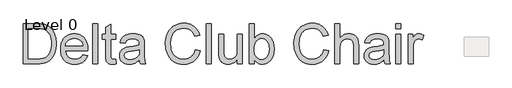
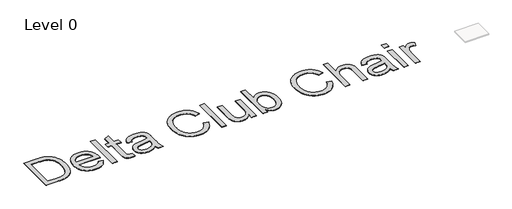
# One storey, part 2 of 2: 1 proxy.
"""IFC4 building model written with IfcOpenShell, lengths in millimetres."""

from ifc_helpers import new_model, si_unit, origin, origin_with_axes, place, context, project, spatial, polyline, outline, extrude, element, save

model = new_model("IFC4")

# Units and contexts
model_context = context("Model", 3, world=origin())
ifc_project = project(units=[si_unit("LENGTHUNIT", "METRE", prefix="MILLI")], contexts=[model_context])

# Site, building, storey
site = spatial("IfcSite", under=ifc_project)
building = spatial("IfcBuilding", under=site)
storey = spatial("IfcBuildingStorey", under=building, Name="Level 0", Elevation=0.0)

# Proxy
placement = place(None, origin())
element("IfcBuildingElementProxy", 1, Name="10 mm", ObjectType="10 mm", at=placement, inside=storey, context=model_context, shape_type="SweptSolid", body=[
    extrude(outline(polyline([(-216527.2707047, 70710.4267394), (-216527.2707047, 80756.0577544), (-213061.8223102, 80756.0577544), (-212776.828727, 80753.7968129), (-212509.2328966, 80747.0139887), (-212259.0348188, 80735.7092815), (-212026.2344938, 80719.8826915), (-211810.8319214, 80699.5342187), (-211612.8271017, 80674.6638629), (-211432.2200347, 80645.2716244), (-211269.0107204, 80611.3575029), (-211057.0953627, 80556.6733772), (-210852.9974975, 80491.9491387), (-210656.7171246, 80417.1847874), (-210468.2542442, 80332.3803233), (-210287.6088561, 80237.5357464), (-210114.7809605, 80132.6510567), (-209949.7705572, 80017.7262543), (-209792.5776464, 79892.761339), (-209600.1676987, 79718.9370963), (-209420.2504104, 79533.4632571), (-209252.8257816, 79336.3398213), (-209097.8938122, 79127.5667891), (-208955.4545021, 78907.1441603), (-208825.5078516, 78675.071935), (-208708.0538604, 78431.3501132), (-208603.0925286, 78175.9786949), (-208510.5472142, 77910.1073113), (-208430.3412751, 77634.8855936), (-208362.4747112, 77350.3135419), (-208306.9475225, 77056.3911562), (-208263.7597091, 76753.1184364), (-208232.911271, 76440.4953826), (-208214.4022081, 76118.5219948), (-208208.2325205, 75787.1982729), (-208212.409514, 75505.5194598), (-208224.9404944, 75231.9263864), (-208245.8254619, 74966.4190527), (-208275.0644163, 74708.9974587), (-208312.6573577, 74459.6616043), (-208358.604286, 74218.4114897), (-208412.9052013, 73985.2471147), (-208475.5601036, 73760.1684794), (-208544.767904, 73543.9036836), (-208618.7275134, 73337.1808271), (-208697.438932, 73139.9999097), (-208780.9021596, 72952.3609317), (-208869.1171964, 72774.2638929), (-208962.0840423, 72605.7087933), (-209059.8026972, 72446.695633), (-209162.2731613, 72297.2244119), (-209268.3458033, 72156.3754251), (-209376.8709918, 72023.2289676), (-209487.848727, 71897.7850394), (-209601.2790089, 71780.0436404), (-209717.1618374, 71670.0047707), (-209835.4972125, 71567.6684303), (-209956.2851342, 71473.0346191), (-210079.5256026, 71386.1033372), (-210207.1921513, 71305.5333482), (-210341.2583138, 71229.9834155), (-210481.7240902, 71159.4535393), (-210628.5894804, 71093.9437194), (-210781.8544846, 71033.4539559), (-210941.5191026, 70977.9842488), (-211107.5833344, 70927.5345981), (-211280.0471802, 70882.1050038), (-211458.9872819, 70841.8679106), (-211644.4802817, 70806.9957631), (-211836.5261795, 70777.4885614), (-212035.1249753, 70753.3463055), (-212240.2766692, 70734.5689953), (-212451.9812611, 70721.1566309), (-212670.238751, 70713.1092123), (-212895.049139, 70710.4267394), (-216527.2707047, 70710.4267394)]), holes=[polyline([(-215271.5668279, 71966.1306163), (-213049.559577, 71966.1306163), (-212798.9782888, 71968.9663733), (-212562.2692176, 71977.4736445), (-212339.4323632, 71991.6524297), (-212130.4677257, 72011.502729), (-211935.3753052, 72037.0245424), (-211754.1551015, 72068.2178699), (-211586.8071147, 72105.0827115), (-211433.3313449, 72147.6190672), (-211290.5471455, 72195.3287635), (-211155.2738702, 72247.7136268), (-211027.5115189, 72304.773657), (-210907.2600918, 72366.5088544), (-210794.5195887, 72432.9192187), (-210689.2900096, 72504.0047501), (-210591.5713547, 72579.7654484), (-210501.3636238, 72660.2013138), (-210382.1277042, 72781.0850382), (-210269.6746089, 72911.9705543), (-210164.0043379, 73052.8578621), (-210065.1168911, 73203.7469617), (-209973.0122687, 73364.637853), (-209887.6904705, 73535.5305361), (-209809.1514967, 73716.4250109), (-209737.3953471, 73907.3212775), (-209673.3034058, 74108.410941), (-209617.7570566, 74319.8856067), (-209570.7562996, 74541.7452745), (-209532.3011348, 74773.9899445), (-209502.3915622, 75016.6196166), (-209481.0275817, 75269.6342909), (-209468.2091934, 75533.0339673), (-209463.9363974, 75806.8186459), (-209472.3095448, 76182.5181335), (-209497.4289873, 76535.838133), (-209539.2947248, 76866.7786445), (-209597.9067573, 77175.339668), (-209673.2650847, 77461.5212034), (-209765.3697072, 77725.3232508), (-209874.2206246, 77966.7458101), (-209999.817837, 78185.7888814), (-210137.4095353, 78385.0582955), (-210282.2439104, 78567.1598831), (-210434.3209622, 78732.0936442), (-210593.6406909, 78879.859579), (-210760.2030963, 79010.4576873), (-210934.0081785, 79123.8879691), (-211115.0559375, 79220.1504245), (-211303.3463732, 79299.2450535), (-211452.4152234, 79346.3799341), (-211622.4840041, 79387.230164), (-211813.5527153, 79421.7957431), (-212025.6213571, 79450.0766715), (-212258.6899295, 79472.0729491), (-212512.7584324, 79487.784576), (-212787.8268659, 79497.2115521), (-213083.8952299, 79500.3538775), (-215271.5668279, 79500.3538775), (-215271.5668279, 71966.1306163)])]), origin_with_axes(), (0.0, 0.0, 1.0), 50.0),
    extrude(outline(polyline([(-201473.5394621, 72907.9085239), (-200242.3610516, 72750.9455393), (-200328.4875916, 72497.0686416), (-200431.1305004, 72257.8303816), (-200550.2897779, 72033.2307594), (-200685.9654241, 71823.2697748), (-200838.1574391, 71627.947428), (-201006.8658228, 71447.2637189), (-201192.0905753, 71281.2186476), (-201393.8316965, 71129.8122139), (-201611.0928394, 70994.7305438), (-201842.8776569, 70877.6597631), (-202089.1861489, 70778.5998716), (-202350.0183156, 70697.5508696), (-202625.3741569, 70634.5127569), (-202915.2536728, 70589.4855335), (-203219.6568633, 70562.4691995), (-203538.5837284, 70553.4637548), (-203938.7703613, 70569.002937), (-204317.7271373, 70615.6204836), (-204675.4540566, 70693.3163945), (-205011.9511191, 70802.0906699), (-205327.2183247, 70941.9433096), (-205621.2556736, 71112.8743137), (-205894.0631656, 71314.8836822), (-206145.6408009, 71547.9714151), (-206371.5433385, 71809.1101501), (-206567.3255378, 72095.272525), (-206732.9873988, 72406.4585398), (-206868.5289214, 72742.6681944), (-206973.9501056, 73103.901489), (-207049.2509515, 73490.1584234), (-207094.431459, 73901.4389977), (-207109.4916282, 74337.7432119), (-207094.2781749, 74788.8968295), (-207048.6378149, 75214.0687812), (-206972.5705481, 75613.259067), (-206866.0763747, 75986.4676869), (-206729.1552947, 76333.6946409), (-206561.8073079, 76654.939929), (-206364.0324145, 76950.2035511), (-206135.8306143, 77219.4855074), (-205883.3715951, 77459.7584355), (-205612.8250445, 77667.9949732), (-205324.1909625, 77844.1951205), (-205017.469349, 77988.3588773), (-204692.6602041, 78100.4862438), (-204349.7635277, 78180.5772198), (-203988.77932, 78228.6318054), (-203609.7075808, 78244.6500006), (-203243.0326984, 78228.6701265), (-202893.4873214, 78180.730504), (-202561.0714498, 78100.8311331), (-202245.7850837, 77988.972014), (-201947.6282229, 77845.1531465), (-201666.6008675, 77669.3745307), (-201402.7030175, 77461.6361665), (-201155.9346729, 77221.938054), (-200932.6188056, 76953.2692344), (-200739.0783872, 76658.6187489), (-200575.3134177, 76337.9865975), (-200441.3238973, 75991.3727802), (-200337.1098259, 75618.7772969), (-200262.6712034, 75220.2001478), (-200218.0080299, 74795.6413327), (-200203.1203054, 74345.1008518), (-200210.4779453, 74006.6494162), (-205853.7877514, 74006.6494162), (-205826.4073674, 73748.3272777), (-205781.0544152, 73505.5634819), (-205717.7288947, 73278.3580289), (-205636.4308059, 73066.7109185), (-205537.1601487, 72870.6221509), (-205419.9169233, 72690.091726), (-205284.7011295, 72525.1196437), (-205131.5127675, 72375.7059042), (-204964.3372254, 72242.9234966), (-204787.1598916, 72127.84541), (-204599.980766, 72030.4716444), (-204402.7998487, 71950.8021998), (-204195.6171397, 71888.8370763), (-203978.4326389, 71844.5762737), (-203751.2463463, 71818.0197922), (-203514.058262, 71809.1676317), (-203337.0916939, 71813.2679831), (-203166.7163449, 71825.5690373), (-203002.932215, 71846.0707943), (-202845.7393041, 71874.7732541), (-202695.1376123, 71911.6764168), (-202551.1271397, 71956.7802822), (-202413.707886, 72010.0848505), (-202282.8798515, 72071.5901216), (-202158.643036, 72142.0625163), (-202040.9974397, 72222.2684554), (-201929.9430624, 72312.207939), (-201825.4799042, 72411.8809671), (-201727.607965, 72521.2875396), (-201636.327245, 72640.4276566), (-201551.637744, 72769.301318), (-201473.5394621, 72907.9085239)]), holes=[polyline([(-205853.7877514, 75262.3532931), (-201458.8241823, 75262.3532931), (-201485.9938005, 75445.9110802), (-201523.3568156, 75617.6659867), (-201570.9132277, 75777.6180126), (-201628.6630367, 75925.7671577), (-201696.6062427, 76062.1134222), (-201774.7428457, 76186.6568059), (-201863.0728455, 76299.3973091), (-201961.5962424, 76400.3349315), (-202126.913214, 76538.2906797), (-202304.0330662, 76657.8523281), (-202492.9557992, 76759.0198768), (-202693.6814128, 76841.7933257), (-202906.2099071, 76906.1726748), (-203130.5412821, 76952.1579242), (-203366.6755377, 76979.7490739), (-203614.612674, 76988.9461238), (-203839.9595566, 76981.6076444), (-204056.1477103, 76959.5922062), (-204263.1771352, 76922.8998093), (-204461.0478313, 76871.5304536), (-204649.7597985, 76805.4841392), (-204829.3130369, 76724.760866), (-204999.7075464, 76629.360634), (-205160.9433271, 76519.2834433), (-205308.8433855, 76396.9051983), (-205439.230728, 76264.6018037), (-205552.1053548, 76122.3732594), (-205647.4672657, 75970.2195655), (-205725.3164608, 75808.1407218), (-205785.6529402, 75636.1367286), (-205828.4767037, 75454.2075857), (-205853.7877514, 75262.3532931)])]), origin_with_axes(), (0.0, 0.0, 1.0), 50.0),
    extrude(outline(polyline([(-198947.4164286, 70710.4267394), (-198947.4164286, 80756.0577544), (-197691.7125517, 80756.0577544), (-197691.7125517, 70710.4267394), (-198947.4164286, 70710.4267394)])), origin_with_axes(), (0.0, 0.0, 1.0), 50.0),
    extrude(outline(polyline([(-193139.785998, 71757.6641523), (-192982.8230134, 70673.6385399), (-193238.3477159, 70621.0620714), (-193360.9367266, 70600.4070302), (-193480.0768436, 70583.5074511), (-193595.7680669, 70570.363334), (-193708.0103964, 70560.9746789), (-193816.8038323, 70555.3414858), (-193922.1483745, 70553.4637548), (-194087.1970987, 70556.7210433), (-194242.6655627, 70566.4929088), (-194388.5537665, 70582.7793513), (-194524.8617099, 70605.5803708), (-194651.589393, 70634.8959673), (-194768.7368159, 70670.7261408), (-194876.3039784, 70713.0708913), (-194974.2908807, 70761.9302187), (-195064.0387591, 70816.0778499), (-195146.8888501, 70874.2875114), (-195222.8411536, 70936.5592033), (-195291.8956698, 71002.8929256), (-195354.0523986, 71073.2886782), (-195409.31134, 71147.7464612), (-195457.6724939, 71226.2662745), (-195499.1358604, 71308.8481182), (-195534.7744287, 71405.1488947), (-195565.6611879, 71524.8255062), (-195591.796138, 71667.8779529), (-195613.1792789, 71834.3062347), (-195629.8106108, 72024.1103516), (-195641.6901336, 72237.2903036), (-195648.8178472, 72473.8460907), (-195651.1937518, 72733.7777129), (-195651.1937518, 76831.9831392), (-196592.9716594, 76831.9831392), (-196592.9716594, 78087.687016), (-195651.1937518, 78087.687016), (-195651.1937518, 79880.4986059), (-194395.4898749, 80618.7151428), (-194395.4898749, 78087.687016), (-193139.785998, 78087.687016), (-193139.785998, 76831.9831392), (-194395.4898749, 76831.9831392), (-194395.4898749, 72770.5659124), (-194391.3512025, 72541.5593704), (-194378.9351851, 72357.3118045), (-194369.6231721, 72281.9726376), (-194358.2418229, 72217.8232146), (-194344.7911375, 72164.8635358), (-194329.2711158, 72123.0936009), (-194291.0267167, 72054.4989372), (-194268.0532525, 72023.0182019), (-194242.5122786, 71993.4151976), (-194183.7278014, 71939.842382), (-194114.6732853, 71893.7804906), (-194075.5283417, 71873.9493518), (-194032.2830468, 71856.7623648), (-193984.9374004, 71842.2195297), (-193933.4914026, 71830.3208464), (-193877.9450535, 71821.066315), (-193818.2983529, 71814.4559354), (-193686.7038975, 71809.1676317), (-193575.2663098, 71805.9486642), (-193446.967464, 71796.2917618), (-193301.8073601, 71780.1969246), (-193139.785998, 71757.6641523)])), origin_with_axes(), (0.0, 0.0, 1.0), 50.0),
    extrude(outline(polyline([(-187175.1925829, 71652.2046471), (-187323.5141727, 71506.92958), (-187472.9470728, 71372.7676149), (-187623.491283, 71249.7187517), (-187775.1468034, 71137.7829905), (-187927.913634, 71036.9603312), (-188081.7917748, 70947.2507738), (-188236.7812258, 70868.6543184), (-188392.8819869, 70801.1709649), (-188550.9754423, 70743.1145875), (-188711.9429757, 70692.7990605), (-188875.7845872, 70650.2243837), (-189042.5002768, 70615.3905573), (-189212.0900444, 70588.2975812), (-189384.5538902, 70568.9454554), (-189559.891814, 70557.33418), (-189738.103816, 70553.4637548), (-190026.258885, 70562.7757678), (-190297.2078066, 70590.7118068), (-190550.9505806, 70637.2718718), (-190787.4872072, 70702.4559628), (-191006.8176863, 70786.2640799), (-191208.9420179, 70888.6962229), (-191393.8602021, 71009.7523919), (-191561.5722387, 71149.432587), (-191710.7368915, 71303.5981356), (-191840.0129238, 71468.1103653), (-191949.4003358, 71642.9692761), (-192038.8991275, 71828.1748681), (-192108.5092987, 72023.7271412), (-192158.2308497, 72229.6260953), (-192188.0637802, 72445.8717306), (-192198.0080904, 72672.464047), (-192194.2526284, 72807.0858646), (-192182.9862423, 72938.718641), (-192164.2089321, 73067.3623762), (-192137.9206978, 73193.0170702), (-192104.1215395, 73315.682723), (-192062.8114572, 73435.3593345), (-192013.9904507, 73552.0469049), (-191957.6585202, 73665.745434), (-191895.2143836, 73775.1903276), (-191828.056759, 73879.1169912), (-191756.1856463, 73977.5254249), (-191679.6010455, 74070.4156287), (-191598.3029567, 74157.7876025), (-191512.2913798, 74239.6413465), (-191421.5663148, 74315.9768605), (-191326.1277618, 74386.7941445), (-191226.8187836, 74452.7829774), (-191124.4824432, 74514.6331379), (-191019.1187405, 74572.3446259), (-190910.7276756, 74625.9174414), (-190799.3092484, 74675.3515845), (-190684.863459, 74720.6470552), (-190567.3903073, 74761.8038534), (-190446.8897933, 74798.8219791), (-190243.7882752, 74847.4130593), (-189995.0080759, 74895.0844345), (-189700.5491956, 74941.8361048), (-189360.4116343, 74987.66807), (-189002.8763202, 75034.1131719), (-188669.7131883, 75082.7042521), (-188360.9222386, 75133.4413106), (-188076.5034711, 75186.3243474), (-187816.4568858, 75241.3533625), (-187580.7824826, 75298.5283559), (-187369.4802616, 75357.8493276), (-187182.5502228, 75419.3162777), (-187175.1925829, 75698.906594), (-187180.5958497, 75857.172494), (-187196.8056501, 76003.328945), (-187223.8219841, 76137.375947), (-187261.6448518, 76259.3135), (-187310.274253, 76369.141604), (-187369.7101879, 76466.8602589), (-187439.9526563, 76552.4694649), (-187521.0016584, 76625.9692219), (-187644.6253372, 76711.0419332), (-187782.5044433, 76784.7716164), (-187934.6389767, 76847.1582715), (-188101.0289374, 76898.2018983), (-188281.6743255, 76937.9024969), (-188476.5751408, 76966.2600674), (-188685.7313835, 76983.2746097), (-188909.1430535, 76988.9461238), (-189117.3029491, 76985.1715012), (-189311.3607016, 76973.8476335), (-189491.3163109, 76954.9745208), (-189657.169777, 76928.5521629), (-189808.9211, 76894.5805599), (-189946.5702799, 76853.0597118), (-190070.1173166, 76803.9896186), (-190179.5622102, 76747.3702803), (-190278.6221016, 76681.1323606), (-190371.0141318, 76603.2065234), (-190456.7383009, 76513.5927686), (-190535.7946088, 76412.2910963), (-190608.1830556, 76299.3015064), (-190673.9036412, 76174.623999), (-190732.9563656, 76038.258574), (-190785.3412289, 75890.2052315), (-192041.0451058, 76047.1682161), (-191996.6118586, 76232.6420553), (-191945.4724291, 76408.9188447), (-191887.6268175, 76575.9985842), (-191823.0750236, 76733.8812738), (-191751.8170476, 76882.5669135), (-191673.8528893, 77022.0555033), (-191589.1825489, 77152.3470433), (-191497.8060262, 77273.4415334), (-191397.8264298, 77386.6035679), (-191287.3468682, 77493.0977413), (-191166.3673412, 77592.9240536), (-191034.887849, 77686.0825046), (-190892.9083915, 77772.5730945), (-190740.4289687, 77852.3958233), (-190577.4495806, 77925.5506909), (-190403.9702272, 77992.0376973), (-190221.6961949, 78051.2437059), (-190032.33277, 78102.55558), (-189835.8799525, 78145.9733196), (-189632.3377424, 78181.4969248), (-189421.7061396, 78209.1263955), (-189203.9851442, 78228.8617317), (-188979.1747562, 78240.7029334), (-188747.2749756, 78244.6500006), (-188518.5558414, 78241.1627859), (-188300.8348461, 78230.7011416), (-188094.1119895, 78213.2650679), (-187898.3872718, 78188.8545647), (-187713.6606928, 78157.469632), (-187539.9322527, 78119.1102698), (-187377.2019514, 78073.7764781), (-187225.4697889, 78021.4682569), (-187084.0843075, 77963.8908925), (-186952.3940496, 77902.7496714), (-186830.399015, 77838.0445934), (-186718.0992039, 77769.7756585), (-186615.4946162, 77697.9428669), (-186522.5852519, 77622.5462184), (-186439.371111, 77543.5857131), (-186365.8521935, 77461.0613509), (-186299.7483975, 77373.9767849), (-186238.779621, 77281.3356678), (-186182.945864, 77183.1379999), (-186132.2471266, 77079.3837809), (-186086.6834086, 76970.073011), (-186046.2547102, 76855.2056901), (-186010.9610313, 76734.7818182), (-185980.8023719, 76608.8013954), (-185966.4319815, 76521.8892741), (-185953.9776431, 76420.5684412), (-185934.8171225, 76174.7006411), (-185923.3208102, 75871.1979951), (-185919.488706, 75510.0605032), (-185919.488706, 73947.788297), (-185915.5033178, 73199.8382155), (-185903.5471529, 72586.9314831), (-185894.5800293, 72331.1193728), (-185883.6202115, 72109.0680998), (-185870.6676996, 71920.7776641), (-185855.7224935, 71766.2480656), (-185837.8648884, 71629.307825), (-185816.1751791, 71493.7854629), (-185790.6533656, 71359.6809793), (-185761.2994481, 71226.9943743), (-185728.1134265, 71095.7256478), (-185691.0953007, 70965.8747998), (-185650.2450708, 70837.4418303), (-185605.5627368, 70710.4267394), (-186861.2666137, 70710.4267394), (-186919.8211646, 70813.1271297), (-186972.8574856, 70920.1194767), (-187020.3755766, 71031.4037802), (-187062.3754377, 71146.9800404), (-187098.8570689, 71266.8482571), (-187129.8204702, 71391.0084305), (-187155.2656415, 71519.4605605), (-187175.1925829, 71652.2046471)]), holes=[polyline([(-187175.1925829, 74163.6124008), (-187354.3817714, 74108.2384963), (-187554.7241746, 74054.9339281), (-187776.2197925, 74003.698696), (-188018.8686252, 73954.5328002), (-188282.6706726, 73907.4362406), (-188567.6259347, 73862.4090173), (-188873.7344115, 73819.4511301), (-189200.996103, 73778.5625792), (-189554.5460288, 73731.810909), (-189852.4538028, 73682.3001238), (-189980.5418829, 73656.5100631), (-190094.719425, 73630.0302236), (-190194.9864293, 73602.8606054), (-190281.3428955, 73575.0012085), (-190358.4639909, 73545.1491175), (-190431.0248823, 73512.0014168), (-190499.0255699, 73475.5581067), (-190562.4660535, 73435.819187), (-190621.3463332, 73392.7846578), (-190675.6664091, 73346.454519), (-190725.426281, 73296.8287707), (-190770.6259491, 73243.9074129), (-190810.8630423, 73188.6101505), (-190845.7351898, 73131.8566885), (-190875.2423915, 73073.647027), (-190899.3846474, 73013.9811659), (-190918.1619576, 72952.8591052), (-190931.574322, 72890.280845), (-190939.6217406, 72826.2463852), (-190942.3042135, 72760.7557259), (-190936.4602547, 72661.0826978), (-190918.9283784, 72565.6249843), (-190889.7085845, 72474.3825852), (-190848.8008731, 72387.3555008), (-190796.2052441, 72304.5437308), (-190731.9216975, 72225.9472754), (-190655.9502334, 72151.5661345), (-190568.2908518, 72081.4003081), (-190469.3267629, 72017.5957746), (-190359.4411774, 71962.2985122), (-190238.6340951, 71915.5085209), (-190106.9055161, 71877.2258008), (-189964.2554404, 71847.4503518), (-189810.6838679, 71826.1821739), (-189646.1907987, 71813.4212672), (-189470.7762328, 71809.1676317), (-189294.8060118, 71813.8619592), (-189123.740884, 71827.9449418), (-188957.5808495, 71851.4165796), (-188796.3259083, 71884.2768724), (-188639.9760604, 71926.5258202), (-188488.5313057, 71978.1634232), (-188341.9916443, 72039.1896813), (-188200.3570761, 72109.6045944), (-188065.7735796, 72186.6873687), (-187940.3871329, 72267.7172102), (-187824.1977361, 72352.694119), (-187717.2053891, 72441.618095), (-187619.4100921, 72534.4891383), (-187530.8118449, 72631.3072488), (-187451.4106476, 72732.0724266), (-187381.2065002, 72836.7846715), (-187334.6464352, 72923.8500771), (-187294.2943788, 73020.7256691), (-187260.1503312, 73127.4114477), (-187232.2142922, 73243.9074129), (-187210.4862618, 73370.2135645), (-187194.9662401, 73506.3299028), (-187185.6542271, 73652.2564275), (-187182.5502228, 73807.9931388), (-187175.1925829, 74163.6124008)])]), origin_with_axes(), (0.0, 0.0, 1.0), 50.0),
    extrude(outline(polyline([(-173048.5239681, 74281.3346393), (-171792.8200912, 73957.5984835), (-171906.7485466, 73554.8251803), (-172041.2937222, 73176.6923067), (-172196.4556178, 72823.1998624), (-172372.2342337, 72494.3478477), (-172568.6295696, 72190.1362624), (-172785.6416257, 71910.5651066), (-173023.270402, 71655.6343802), (-173281.5158984, 71425.3440834), (-173557.5806789, 71220.9971314), (-173848.6673076, 71043.8964396), (-174154.7757844, 70894.0420081), (-174475.9061094, 70771.4338369), (-174812.0582825, 70676.071926), (-175163.2323037, 70607.9562753), (-175529.4281731, 70567.0868849), (-175910.6458906, 70553.4637548), (-176302.8809074, 70563.7721149), (-176676.3769351, 70594.6971951), (-177031.1339737, 70646.2389955), (-177367.1520232, 70718.397516), (-177684.4310835, 70811.1727566), (-177982.9711547, 70924.5647174), (-178262.7722367, 71058.5733984), (-178523.8343297, 71213.1987995), (-178768.016004, 71387.3679316), (-178997.1758301, 71580.0078055), (-179211.3138082, 71791.1184213), (-179410.429938, 72020.6997789), (-179594.5242198, 72268.7518784), (-179763.5966534, 72535.2747197), (-179917.6472389, 72820.2683028), (-180056.6759762, 73123.7326278), (-180179.9739262, 73439.3064018), (-180286.8321495, 73760.6283319), (-180377.2506461, 74087.6984183), (-180451.2294161, 74420.5166608), (-180508.7684594, 74759.0830595), (-180549.867776, 75103.3976143), (-180574.527366, 75453.4603254), (-180582.7472293, 75809.2711926), (-180573.4543769, 76194.2060511), (-180545.5758194, 76566.6482501), (-180499.111557, 76926.5977898), (-180434.0615896, 77274.05467), (-180350.4259173, 77609.0188908), (-180248.20454, 77931.4904522), (-180127.3974577, 78241.4693542), (-179988.0046705, 78538.9555968), (-179831.4823778, 78821.4391517), (-179659.2867794, 79086.4099908), (-179471.4178751, 79333.8681142), (-179267.8756649, 79563.8135217), (-179048.6601489, 79776.2462134), (-178813.7713271, 79971.1661892), (-178563.2091995, 80148.5734493), (-178296.973766, 80308.4679936), (-178019.4527859, 80450.1600433), (-177735.0340183, 80572.9598197), (-177443.7174634, 80676.8673228), (-177145.5031211, 80761.8825526), (-176840.3909913, 80828.0055092), (-176528.3810742, 80875.2361924), (-176209.4733696, 80903.5746023), (-175883.6678776, 80913.020739), (-175517.1079584, 80900.7963268), (-175165.4549241, 80864.1230905), (-174828.7087749, 80803.0010298), (-174506.8695107, 80717.4301449), (-174199.9371315, 80607.4104357), (-173907.9116373, 80472.9419023), (-173630.7930281, 80314.0245445), (-173368.5813039, 80130.6583626), (-173123.4990852, 79925.1042978), (-172897.7689922, 79699.6232916), (-172691.391025, 79454.2153439), (-172504.3651836, 79188.8804549), (-172336.691468, 78903.6186245), (-172188.3698781, 78598.4298527), (-172059.4004141, 78273.3141394), (-171949.7830759, 77928.2714848), (-173205.4869527, 77629.0607954), (-173299.3735036, 77884.9495477), (-173403.2235251, 78122.8657318), (-173517.0370174, 78342.8093476), (-173640.8139804, 78544.780395), (-173774.554414, 78728.7788742), (-173918.2583184, 78894.804785), (-174071.9256935, 79042.8581276), (-174235.5565392, 79172.9389018), (-174409.6107082, 79286.4649862), (-174594.5480528, 79384.8542594), (-174790.3685732, 79468.1067214), (-174997.0722692, 79536.222372), (-175214.659141, 79589.2012114), (-175443.1291884, 79627.0432396), (-175682.4824115, 79649.7484565), (-175932.7188103, 79657.3168621), (-176220.3948663, 79648.9245541), (-176496.0381154, 79623.7476301), (-176759.6485576, 79581.78609), (-177011.2261928, 79523.0399339), (-177250.7710211, 79447.5091617), (-177478.2830425, 79355.1937736), (-177693.762257, 79246.0937694), (-177897.2086645, 79120.2091492), (-178087.3001892, 78980.1840647), (-178262.7147552, 78828.662668), (-178423.4523623, 78665.6449589), (-178569.5130107, 78491.1309374), (-178700.8967004, 78305.1206036), (-178817.6034312, 78107.6139574), (-178919.6332033, 77898.6109989), (-179006.9860167, 77678.1117281), (-179081.9994547, 77450.9829171), (-179147.0111011, 77222.0913382), (-179202.0209557, 76991.4369914), (-179247.0290185, 76759.0198768), (-179282.0352896, 76524.8399942), (-179307.039769, 76288.8973438), (-179322.0424566, 76051.1919254), (-179327.0433525, 75811.7237392), (-179321.1227516, 75506.9948199), (-179303.360949, 75212.0760871), (-179273.7579447, 74926.9675408), (-179232.3137387, 74651.6691811), (-179179.028331, 74386.1810079), (-179113.9017215, 74130.5030212), (-179036.9339103, 73884.6352211), (-178948.1248974, 73648.5776076), (-178846.8040646, 73424.7252456), (-178732.3007936, 73215.4732003), (-178604.6150844, 73020.8214717), (-178463.7469371, 72840.7700598), (-178309.6963516, 72675.3189646), (-178142.463328, 72524.468186), (-177962.0478662, 72388.2177242), (-177768.4499662, 72266.567579), (-177566.2106715, 72159.3644664), (-177359.8710253, 72066.455102), (-177149.4310278, 71987.8394861), (-176934.8906788, 71923.5176185), (-176716.2499785, 71873.4894993), (-176493.5089267, 71837.7551284), (-176266.6675235, 71816.3145058), (-176035.725769, 71809.1676317), (-175757.3042444, 71818.9011761), (-175489.8042165, 71848.1018095), (-175233.2256854, 71896.7695318), (-174987.568651, 71964.904343), (-174752.8331134, 72052.5062431), (-174529.0190725, 72159.5752321), (-174316.1265283, 72286.11131), (-174114.1554808, 72432.1144768), (-173925.5584767, 72597.2781643), (-173752.7880626, 72781.2958039), (-173595.8442385, 72984.1673959), (-173454.7270045, 73205.89294), (-173329.4363604, 73446.4724365), (-173219.9723063, 73705.9058851), (-173126.3348422, 73984.1932861), (-173048.5239681, 74281.3346393)])), origin_with_axes(), (0.0, 0.0, 1.0), 50.0),
    extrude(outline(polyline([(-170223.1902452, 70710.4267394), (-170223.1902452, 80756.0577544), (-168967.4863683, 80756.0577544), (-168967.4863683, 70710.4267394), (-170223.1902452, 70710.4267394)])), origin_with_axes(), (0.0, 0.0, 1.0), 50.0),
    extrude(outline(polyline([(-162375.0410147, 70710.4267394), (-162375.0410147, 71978.3933495), (-162592.8578127, 71644.4254757), (-162829.3752788, 71354.9866518), (-163084.5934129, 71110.0768777), (-163358.5122152, 70909.6961535), (-163651.1316855, 70753.844479), (-163962.4518239, 70642.5218545), (-164292.4726304, 70575.7282797), (-164641.194105, 70553.4637548), (-164798.061287, 70557.372501), (-164952.2843172, 70569.0987396), (-165103.8631955, 70588.6424706), (-165252.797922, 70616.003694), (-165399.0884966, 70651.1824098), (-165542.7349194, 70694.178618), (-165683.7371904, 70744.9923185), (-165822.0953095, 70803.6235115), (-165954.724433, 70868.1561448), (-166078.539717, 70936.6741664), (-166193.5411615, 71009.1775763), (-166299.7287666, 71085.6663745), (-166397.1025322, 71166.1405609), (-166485.6624583, 71250.6001357), (-166565.408545, 71339.0450987), (-166636.3407922, 71431.47545), (-166700.3944125, 71528.5426472), (-166759.5046185, 71630.8981482), (-166813.6714102, 71738.5419528), (-166862.8947876, 71851.4740611), (-166907.1747506, 71969.6944731), (-166946.5112994, 72093.2031888), (-166980.9044338, 72222.0002081), (-167010.354154, 72356.0855312), (-167027.5986225, 72454.8005332), (-167042.5438285, 72567.0045417), (-167055.1897721, 72692.6975568), (-167065.5364532, 72831.8795783), (-167079.332028, 73150.7106407), (-167083.930553, 73523.4977292), (-167083.930553, 78087.687016), (-165828.2266761, 78087.687016), (-165828.2266761, 74114.5614681), (-165823.474867, 73678.6213038), (-165809.2194397, 73319.9363585), (-165798.5278692, 73169.564593), (-165785.4603942, 73038.5066322), (-165770.0170146, 72926.7624762), (-165752.1977304, 72834.3321249), (-165718.6859799, 72717.9702834), (-165677.0118477, 72608.0080558), (-165627.1753336, 72504.445442), (-165569.1764378, 72407.2824422), (-165503.0151603, 72316.5190562), (-165428.6915009, 72232.155284), (-165346.2054598, 72154.1911258), (-165255.557037, 72082.6265814), (-165158.0491477, 72018.5346401), (-165054.9847075, 71962.9882909), (-164946.3637163, 71915.9875339), (-164832.1861742, 71877.5323691), (-164712.4520811, 71847.6227965), (-164587.161437, 71826.258816), (-164456.3142419, 71813.4404278), (-164319.9104959, 71809.1676317), (-164181.2074874, 71813.5362304), (-164044.6887782, 71826.6420264), (-163910.3543684, 71848.4850199), (-163778.204258, 71879.0652108), (-163648.2384469, 71918.382599), (-163520.4569351, 71966.4371846), (-163394.8597227, 72023.2289676), (-163271.4468096, 72088.757948), (-163153.5904475, 72161.817013), (-163044.662888, 72241.1990498), (-162944.6641311, 72326.9040583), (-162853.5941768, 72418.9320387), (-162771.453025, 72517.2829908), (-162698.2406759, 72621.9569148), (-162633.9571293, 72732.9538105), (-162578.6023854, 72850.273678), (-162530.8926891, 72977.5570162), (-162489.5442857, 73118.4443241), (-162454.5571751, 73272.9356015), (-162425.9313574, 73441.0308486), (-162403.6668325, 73622.7300653), (-162387.7636004, 73818.0332516), (-162378.2216611, 74026.9404075), (-162375.0410147, 74249.451533), (-162375.0410147, 78087.687016), (-161119.3371379, 78087.687016), (-161119.3371379, 70710.4267394), (-162375.0410147, 70710.4267394)])), origin_with_axes(), (0.0, 0.0, 1.0), 50.0),
    extrude(outline(polyline([(-158137.0404303, 70710.4267394), (-159392.7443072, 70710.4267394), (-159392.7443072, 80756.0577544), (-158137.0404303, 80756.0577544), (-158137.0404303, 77030.6394165), (-157937.2345217, 77315.1731472), (-157724.0928907, 77561.7690471), (-157497.6155374, 77770.4271162), (-157257.8024618, 77941.1473546), (-157004.6536639, 78073.9297622), (-156738.1691436, 78168.7743391), (-156458.348901, 78225.6810853), (-156165.1929361, 78244.6500006), (-156000.1442118, 78240.3772045), (-155837.3181079, 78227.5588163), (-155676.7146244, 78206.1948358), (-155518.3337613, 78176.2852632), (-155362.1755185, 78137.8300984), (-155208.2398962, 78090.8293414), (-155056.5268942, 78035.2829922), (-154907.0365126, 77971.1910509), (-154761.9530508, 77899.3582592), (-154623.460808, 77820.5893591), (-154491.5597843, 77734.8843505), (-154366.2499797, 77642.2432335), (-154247.5313942, 77542.6660081), (-154135.4040278, 77436.1526741), (-154029.8678804, 77322.7032318), (-153930.9229521, 77202.317681), (-153837.8603036, 77075.264269), (-153749.9709957, 76941.8112431), (-153667.2550284, 76801.9586034), (-153589.7124016, 76655.7063498), (-153517.3431153, 76503.0544823), (-153450.1471697, 76344.003001), (-153388.1245645, 76178.5519057), (-153331.2753, 76006.7011966), (-153280.4041178, 75830.1369995), (-153236.31576, 75650.5454401), (-153199.0102264, 75467.9265184), (-153168.4875171, 75282.2802345), (-153144.7476321, 75093.6065883), (-153127.7905714, 74901.9055799), (-153117.6163349, 74707.1772092), (-153114.2249228, 74509.4214763), (-153128.2695844, 74050.1054769), (-153170.4035692, 73617.6142063), (-153240.6268771, 73211.9476645), (-153338.9395082, 72833.1058516), (-153465.3414625, 72481.0887674), (-153619.8327399, 72155.8964121), (-153802.4133406, 71857.5287856), (-154013.0832644, 71585.9858879), (-154243.4502033, 71343.988513), (-154485.1218494, 71134.2574547), (-154738.0982027, 70956.7927131), (-155002.3792631, 70811.5942881), (-155277.9650306, 70698.6621798), (-155564.8555053, 70617.9963881), (-155863.0506871, 70569.5969131), (-156172.550576, 70553.4637548), (-156476.8579639, 70574.2720802), (-156764.3807358, 70636.6970562), (-157035.1188916, 70740.738683), (-157289.0724314, 70886.3969604), (-157526.2413552, 71073.6718886), (-157746.6256629, 71302.5634675), (-157950.2253546, 71573.0716971), (-158137.0404303, 71885.1965773), (-158137.0404303, 70710.4267394)]), holes=[polyline([(-158137.0404303, 74450.560357), (-158131.6754845, 74157.0211817), (-158115.5806472, 73884.6352211), (-158088.7559184, 73633.4024753), (-158051.2012981, 73403.3229441), (-158002.9167862, 73194.3966277), (-157943.9023828, 73006.623526), (-157874.1580879, 72840.003639), (-157793.6839015, 72694.5369667), (-157647.7190557, 72487.0285288), (-157489.4148346, 72307.1878826), (-157318.7712383, 72155.0150282), (-157135.7882667, 72030.5099654), (-156940.4659199, 71933.6726944), (-156732.8041979, 71864.5032151), (-156512.8031005, 71823.0015275), (-156280.462628, 71809.1676317), (-156089.3939167, 71819.3610286), (-155904.9164246, 71849.9412195), (-155727.0301515, 71900.9082042), (-155555.7350975, 71972.2619829), (-155391.0312625, 72064.0025554), (-155232.9186467, 72176.1299219), (-155081.3972499, 72308.6440822), (-154936.4670722, 72461.5450365), (-154803.6846646, 72634.6411794), (-154688.606578, 72827.7409058), (-154591.2328124, 73040.8442157), (-154511.5633678, 73273.9511091), (-154449.5982443, 73527.061586), (-154405.3374417, 73800.1756464), (-154378.7809602, 74093.2932903), (-154369.9287997, 74406.4145176), (-154378.4169103, 74726.088643), (-154403.8812421, 75024.1497012), (-154446.3217952, 75300.5976921), (-154505.7385696, 75555.4326159), (-154582.1315651, 75788.6544724), (-154675.5007819, 76000.2632617), (-154785.84622, 76190.2589838), (-154913.1678792, 76358.6416387), (-155052.5223454, 76506.3692524), (-155198.9662042, 76634.3998509), (-155352.4994556, 76742.7334343), (-155513.1220997, 76831.3700025), (-155680.8341363, 76900.3095555), (-155855.6355656, 76949.5520934), (-156037.5263875, 76979.0976162), (-156226.506602, 76988.9461238), (-156417.5753132, 76978.7527268), (-156602.0528054, 76948.172536), (-156779.9390785, 76897.2055512), (-156951.2341325, 76825.8517726), (-157115.9379674, 76734.1112), (-157274.0505833, 76621.9838336), (-157425.57198, 76489.4696732), (-157570.5021577, 76336.568719), (-157703.2845653, 76164.392281), (-157818.362652, 75974.0516696), (-157915.7364176, 75765.5468846), (-157995.4058621, 75538.8779261), (-158057.3709857, 75294.0447941), (-158101.6317883, 75031.0474886), (-158128.1882698, 74749.8860096), (-158137.0404303, 74450.560357)])]), origin_with_axes(), (0.0, 0.0, 1.0), 50.0),
    extrude(outline(polyline([(-140557.1861541, 74281.3346393), (-139301.4822772, 73957.5984835), (-139415.4107326, 73554.8251803), (-139549.9559081, 73176.6923067), (-139705.1178038, 72823.1998624), (-139880.8964196, 72494.3478477), (-140077.2917556, 72190.1362624), (-140294.3038117, 71910.5651066), (-140531.932588, 71655.6343802), (-140790.1780844, 71425.3440834), (-141066.2428649, 71220.9971314), (-141357.3294936, 71043.8964396), (-141663.4379704, 70894.0420081), (-141984.5682954, 70771.4338369), (-142320.7204685, 70676.071926), (-142671.8944897, 70607.9562753), (-143038.0903591, 70567.0868849), (-143419.3080766, 70553.4637548), (-143811.5430934, 70563.7721149), (-144185.0391211, 70594.6971951), (-144539.7961597, 70646.2389955), (-144875.8142092, 70718.397516), (-145193.0932695, 70811.1727566), (-145491.6333407, 70924.5647174), (-145771.4344227, 71058.5733984), (-146032.4965157, 71213.1987995), (-146276.67819, 71387.3679316), (-146505.8380161, 71580.0078055), (-146719.9759941, 71791.1184213), (-146919.092124, 72020.6997789), (-147103.1864058, 72268.7518784), (-147272.2588394, 72535.2747197), (-147426.3094249, 72820.2683028), (-147565.3381622, 73123.7326278), (-147688.6361122, 73439.3064018), (-147795.4943355, 73760.6283319), (-147885.9128321, 74087.6984183), (-147959.8916021, 74420.5166608), (-148017.4306454, 74759.0830595), (-148058.529962, 75103.3976143), (-148083.189552, 75453.4603254), (-148091.4094153, 75809.2711926), (-148082.1165628, 76194.2060511), (-148054.2380054, 76566.6482501), (-148007.773743, 76926.5977898), (-147942.7237756, 77274.05467), (-147859.0881033, 77609.0188908), (-147756.866726, 77931.4904522), (-147636.0596437, 78241.4693542), (-147496.6668565, 78538.9555968), (-147340.1445638, 78821.4391517), (-147167.9489653, 79086.4099908), (-146980.080061, 79333.8681142), (-146776.5378509, 79563.8135217), (-146557.3223349, 79776.2462134), (-146322.4335131, 79971.1661892), (-146071.8713854, 80148.5734493), (-145805.635952, 80308.4679936), (-145528.1149718, 80450.1600433), (-145243.6962043, 80572.9598197), (-144952.3796494, 80676.8673228), (-144654.1653071, 80761.8825526), (-144349.0531773, 80828.0055092), (-144037.0432601, 80875.2361924), (-143718.1355556, 80903.5746023), (-143392.3300636, 80913.020739), (-143025.7701443, 80900.7963268), (-142674.1171101, 80864.1230905), (-142337.3709609, 80803.0010298), (-142015.5316967, 80717.4301449), (-141708.5993174, 80607.4104357), (-141416.5738233, 80472.9419023), (-141139.4552141, 80314.0245445), (-140877.2434899, 80130.6583626), (-140632.1612711, 79925.1042978), (-140406.4311782, 79699.6232916), (-140200.053211, 79454.2153439), (-140013.0273696, 79188.8804549), (-139845.353654, 78903.6186245), (-139697.0320641, 78598.4298527), (-139568.0626001, 78273.3141394), (-139458.4452618, 77928.2714848), (-140714.1491387, 77629.0607954), (-140808.0356896, 77884.9495477), (-140911.8857111, 78122.8657318), (-141025.6992034, 78342.8093476), (-141149.4761663, 78544.780395), (-141283.2166, 78728.7788742), (-141426.9205044, 78894.804785), (-141580.5878794, 79042.8581276), (-141744.2187252, 79172.9389018), (-141918.2728942, 79286.4649862), (-142103.2102388, 79384.8542594), (-142299.0307592, 79468.1067214), (-142505.7344552, 79536.222372), (-142723.321327, 79589.2012114), (-142951.7913744, 79627.0432396), (-143191.1445975, 79649.7484565), (-143441.3809963, 79657.3168621), (-143729.0570523, 79648.9245541), (-144004.7003014, 79623.7476301), (-144268.3107436, 79581.78609), (-144519.8883788, 79523.0399339), (-144759.4332071, 79447.5091617), (-144986.9452285, 79355.1937736), (-145202.424443, 79246.0937694), (-145405.8708505, 79120.2091492), (-145595.9623752, 78980.1840647), (-145771.3769412, 78828.662668), (-145932.1145483, 78665.6449589), (-146078.1751967, 78491.1309374), (-146209.5588864, 78305.1206036), (-146326.2656172, 78107.6139574), (-146428.2953893, 77898.6109989), (-146515.6482027, 77678.1117281), (-146590.6616407, 77450.9829171), (-146655.6732871, 77222.0913382), (-146710.6831417, 76991.4369914), (-146755.6912045, 76759.0198768), (-146790.6974756, 76524.8399942), (-146815.701955, 76288.8973438), (-146830.7046426, 76051.1919254), (-146835.7055385, 75811.7237392), (-146829.7849376, 75506.9948199), (-146812.023135, 75212.0760871), (-146782.4201307, 74926.9675408), (-146740.9759247, 74651.6691811), (-146687.690517, 74386.1810079), (-146622.5639075, 74130.5030212), (-146545.5960963, 73884.6352211), (-146456.7870834, 73648.5776076), (-146355.4662506, 73424.7252456), (-146240.9629796, 73215.4732003), (-146113.2772704, 73020.8214717), (-145972.4091231, 72840.7700598), (-145818.3585376, 72675.3189646), (-145651.125514, 72524.468186), (-145470.7100522, 72388.2177242), (-145277.1121522, 72266.567579), (-145074.8728575, 72159.3644664), (-144868.5332113, 72066.455102), (-144658.0932138, 71987.8394861), (-144443.5528648, 71923.5176185), (-144224.9121645, 71873.4894993), (-144002.1711127, 71837.7551284), (-143775.3297095, 71816.3145058), (-143544.3879549, 71809.1676317), (-143265.9664304, 71818.9011761), (-142998.4664025, 71848.1018095), (-142741.8878714, 71896.7695318), (-142496.230837, 71964.904343), (-142261.4952994, 72052.5062431), (-142037.6812584, 72159.5752321), (-141824.7887143, 72286.11131), (-141622.8176668, 72432.1144768), (-141434.2206627, 72597.2781643), (-141261.4502486, 72781.2958039), (-141104.5064245, 72984.1673959), (-140963.3891904, 73205.89294), (-140838.0985464, 73446.4724365), (-140728.6344923, 73705.9058851), (-140634.9970282, 73984.1932861), (-140557.1861541, 74281.3346393)])), origin_with_axes(), (0.0, 0.0, 1.0), 50.0),
    extrude(outline(polyline([(-137731.8524311, 70710.4267394), (-137731.8524311, 80756.0577544), (-136476.1485543, 80756.0577544), (-136476.1485543, 77062.5225228), (-136252.6219212, 77339.5836504), (-136014.9165028, 77579.7032943), (-135763.0322993, 77782.8814546), (-135496.9693104, 77949.1181312), (-135216.7275364, 78078.4133241), (-134922.3069771, 78170.7670333), (-134613.7076327, 78226.1792588), (-134290.9295029, 78244.6500006), (-134091.3151995, 78239.6107837), (-133898.3687572, 78224.493133), (-133712.0901761, 78199.2970484), (-133532.4794562, 78164.02253), (-133359.5365974, 78118.6695778), (-133193.2615998, 78063.2381918), (-133033.6544634, 77997.7283719), (-132880.7151881, 77922.1401182), (-132736.4364681, 77837.6613829), (-132602.8109976, 77745.4801184), (-132479.8387765, 77645.5963246), (-132367.5198048, 77538.0100016), (-132265.8540826, 77422.7211492), (-132174.8416098, 77299.7297676), (-132094.4823865, 77169.0358567), (-132024.7764126, 77030.6394165), (-131964.4207728, 76880.3826141), (-131912.1125516, 76714.1076165), (-131867.8517491, 76531.8144237), (-131831.6383652, 76333.5030357), (-131803.4723999, 76119.1734525), (-131783.3538533, 75888.825674), (-131771.2827253, 75642.4597004), (-131767.259016, 75380.0755315), (-131767.259016, 70710.4267394), (-133022.9628929, 70710.4267394), (-133022.9628929, 75250.0905599), (-133029.2092226, 75469.8234099), (-133047.9482117, 75674.0745593), (-133079.1798603, 75862.8440081), (-133122.9041682, 76036.1317563), (-133179.1211356, 76193.9378038), (-133247.8307624, 76336.2621507), (-133329.0330487, 76463.1047969), (-133422.7279943, 76574.4657425), (-133527.8809313, 76671.6095819), (-133643.4571914, 76755.8009093), (-133769.4567748, 76827.0397248), (-133905.8796813, 76885.3260285), (-134052.7259111, 76930.6598202), (-134209.995464, 76963.0410999), (-134377.6883401, 76982.4698678), (-134555.8045395, 76988.9461238), (-134691.5185067, 76984.5775251), (-134825.2014588, 76971.471729), (-134956.8533958, 76949.6287355), (-135086.4743175, 76919.0485447), (-135214.0642241, 76879.7311564), (-135339.6231154, 76831.6765708), (-135463.1509916, 76774.8847878), (-135584.6478526, 76709.3558074), (-135700.7989284, 76636.354224), (-135808.2894489, 76557.1446319), (-135907.119414, 76471.7270312), (-135997.2888239, 76380.1014217), (-136078.7976784, 76282.2678037), (-136151.6459777, 76178.2261769), (-136215.8337216, 76067.9765415), (-136271.3609103, 75951.5188974), (-136319.3580144, 75826.2474138), (-136360.9555045, 75689.55626), (-136396.1533808, 75541.4454359), (-136424.9516433, 75381.9149415), (-136447.3502918, 75210.9647769), (-136463.3493265, 75028.594942), (-136472.9487473, 74834.8054368), (-136476.1485543, 74629.5962614), (-136476.1485543, 70710.4267394), (-137731.8524311, 70710.4267394)])), origin_with_axes(), (0.0, 0.0, 1.0), 50.0),
    extrude(outline(polyline([(-125331.7766471, 71652.2046471), (-125480.0982369, 71506.92958), (-125629.5311369, 71372.7676149), (-125780.0753471, 71249.7187517), (-125931.7308675, 71137.7829905), (-126084.4976981, 71036.9603312), (-126238.3758389, 70947.2507738), (-126393.3652899, 70868.6543184), (-126549.4660511, 70801.1709649), (-126707.5595064, 70743.1145875), (-126868.5270398, 70692.7990605), (-127032.3686513, 70650.2243837), (-127199.0843409, 70615.3905573), (-127368.6741086, 70588.2975812), (-127541.1379543, 70568.9454554), (-127716.4758782, 70557.33418), (-127894.6878801, 70553.4637548), (-128182.8429492, 70562.7757678), (-128453.7918707, 70590.7118068), (-128707.5346448, 70637.2718718), (-128944.0712714, 70702.4559628), (-129163.4017505, 70786.2640799), (-129365.5260821, 70888.6962229), (-129550.4442662, 71009.7523919), (-129718.1563029, 71149.432587), (-129867.3209556, 71303.5981356), (-129996.596988, 71468.1103653), (-130105.9844, 71642.9692761), (-130195.4831916, 71828.1748681), (-130265.0933629, 72023.7271412), (-130314.8149138, 72229.6260953), (-130344.6478444, 72445.8717306), (-130354.5921545, 72672.464047), (-130350.8366925, 72807.0858646), (-130339.5703064, 72938.718641), (-130320.7929962, 73067.3623762), (-130294.504762, 73193.0170702), (-130260.7056037, 73315.682723), (-130219.3955213, 73435.3593345), (-130170.5745149, 73552.0469049), (-130114.2425844, 73665.745434), (-130051.7984478, 73775.1903276), (-129984.6408231, 73879.1169912), (-129912.7697104, 73977.5254249), (-129836.1851097, 74070.4156287), (-129754.8870208, 74157.7876025), (-129668.8754439, 74239.6413465), (-129578.150379, 74315.9768605), (-129482.711826, 74386.7941445), (-129383.4028478, 74452.7829774), (-129281.0665074, 74514.6331379), (-129175.7028047, 74572.3446259), (-129067.3117397, 74625.9174414), (-128955.8933126, 74675.3515845), (-128841.4475231, 74720.6470552), (-128723.9743714, 74761.8038534), (-128603.4738575, 74798.8219791), (-128400.3723393, 74847.4130593), (-128151.5921401, 74895.0844345), (-127857.1332598, 74941.8361048), (-127516.9956984, 74987.66807), (-127159.4603843, 75034.1131719), (-126826.2972525, 75082.7042521), (-126517.5063028, 75133.4413106), (-126233.0875352, 75186.3243474), (-125973.0409499, 75241.3533625), (-125737.3665467, 75298.5283559), (-125526.0643258, 75357.8493276), (-125339.134287, 75419.3162777), (-125331.7766471, 75698.906594), (-125337.1799139, 75857.172494), (-125353.3897143, 76003.328945), (-125380.4060483, 76137.375947), (-125418.2289159, 76259.3135), (-125466.8583172, 76369.141604), (-125526.294252, 76466.8602589), (-125596.5367205, 76552.4694649), (-125677.5857225, 76625.9692219), (-125801.2094013, 76711.0419332), (-125939.0885074, 76784.7716164), (-126091.2230408, 76847.1582715), (-126257.6130016, 76898.2018983), (-126438.2583896, 76937.9024969), (-126633.159205, 76966.2600674), (-126842.3154477, 76983.2746097), (-127065.7271177, 76988.9461238), (-127273.8870133, 76985.1715012), (-127467.9447657, 76973.8476335), (-127647.900375, 76954.9745208), (-127813.7538412, 76928.5521629), (-127965.5051642, 76894.5805599), (-128103.1543441, 76853.0597118), (-128226.7013808, 76803.9896186), (-128336.1462743, 76747.3702803), (-128435.2061657, 76681.1323606), (-128527.598196, 76603.2065234), (-128613.3223651, 76513.5927686), (-128692.378673, 76412.2910963), (-128764.7671198, 76299.3015064), (-128830.4877054, 76174.623999), (-128889.5404298, 76038.258574), (-128941.9252931, 75890.2052315), (-130197.6291699, 76047.1682161), (-130153.1959227, 76232.6420553), (-130102.0564933, 76408.9188447), (-130044.2108816, 76575.9985842), (-129979.6590878, 76733.8812738), (-129908.4011117, 76882.5669135), (-129830.4369535, 77022.0555033), (-129745.766613, 77152.3470433), (-129654.3900904, 77273.4415334), (-129554.410494, 77386.6035679), (-129443.9309323, 77493.0977413), (-129322.9514054, 77592.9240536), (-129191.4719131, 77686.0825046), (-129049.4924556, 77772.5730945), (-128897.0130328, 77852.3958233), (-128734.0336447, 77925.5506909), (-128560.5542914, 77992.0376973), (-128378.2802591, 78051.2437059), (-128188.9168342, 78102.55558), (-127992.4640167, 78145.9733196), (-127788.9218065, 78181.4969248), (-127578.2902037, 78209.1263955), (-127360.5692084, 78228.8617317), (-127135.7588204, 78240.7029334), (-126903.8590398, 78244.6500006), (-126675.1399056, 78241.1627859), (-126457.4189102, 78230.7011416), (-126250.6960537, 78213.2650679), (-126054.9713359, 78188.8545647), (-125870.244757, 78157.469632), (-125696.5163169, 78119.1102698), (-125533.7860156, 78073.7764781), (-125382.0538531, 78021.4682569), (-125240.6683717, 77963.8908925), (-125108.9781137, 77902.7496714), (-124986.9830792, 77838.0445934), (-124874.683268, 77769.7756585), (-124772.0786803, 77697.9428669), (-124679.169316, 77622.5462184), (-124595.9551751, 77543.5857131), (-124522.4362577, 77461.0613509), (-124456.3324617, 77373.9767849), (-124395.3636852, 77281.3356678), (-124339.5299282, 77183.1379999), (-124288.8311907, 77079.3837809), (-124243.2674728, 76970.073011), (-124202.8387744, 76855.2056901), (-124167.5450954, 76734.7818182), (-124137.386436, 76608.8013954), (-124123.0160456, 76521.8892741), (-124110.5617072, 76420.5684412), (-124091.4011867, 76174.7006411), (-124079.9048743, 75871.1979951), (-124076.0727702, 75510.0605032), (-124076.0727702, 73947.788297), (-124072.0873819, 73199.8382155), (-124060.1312171, 72586.9314831), (-124051.1640934, 72331.1193728), (-124040.2042757, 72109.0680998), (-124027.2517637, 71920.7776641), (-124012.3065577, 71766.2480656), (-123994.4489525, 71629.307825), (-123972.7592432, 71493.7854629), (-123947.2374298, 71359.6809793), (-123917.8835123, 71226.9943743), (-123884.6974906, 71095.7256478), (-123847.6793648, 70965.8747998), (-123806.829135, 70837.4418303), (-123762.146801, 70710.4267394), (-125017.8506778, 70710.4267394), (-125076.4052287, 70813.1271297), (-125129.4415497, 70920.1194767), (-125176.9596408, 71031.4037802), (-125218.9595019, 71146.9800404), (-125255.4411331, 71266.8482571), (-125286.4045343, 71391.0084305), (-125311.8497056, 71519.4605605), (-125331.7766471, 71652.2046471)]), holes=[polyline([(-125331.7766471, 74163.6124008), (-125510.9658355, 74108.2384963), (-125711.3082387, 74054.9339281), (-125932.8038567, 74003.698696), (-126175.4526893, 73954.5328002), (-126439.2547367, 73907.4362406), (-126724.2099988, 73862.4090173), (-127030.3184756, 73819.4511301), (-127357.5801672, 73778.5625792), (-127711.1300929, 73731.810909), (-128009.037867, 73682.3001238), (-128137.125947, 73656.5100631), (-128251.3034892, 73630.0302236), (-128351.5704934, 73602.8606054), (-128437.9269597, 73575.0012085), (-128515.048055, 73545.1491175), (-128587.6089465, 73512.0014168), (-128655.609634, 73475.5581067), (-128719.0501176, 73435.819187), (-128777.9303974, 73392.7846578), (-128832.2504732, 73346.454519), (-128882.0103452, 73296.8287707), (-128927.2100132, 73243.9074129), (-128967.4471065, 73188.6101505), (-129002.3192539, 73131.8566885), (-129031.8264556, 73073.647027), (-129055.9687116, 73013.9811659), (-129074.7460217, 72952.8591052), (-129088.1583861, 72890.280845), (-129096.2058048, 72826.2463852), (-129098.8882777, 72760.7557259), (-129093.0443189, 72661.0826978), (-129075.5124426, 72565.6249843), (-129046.2926487, 72474.3825852), (-129005.3849372, 72387.3555008), (-128952.7893082, 72304.5437308), (-128888.5057617, 72225.9472754), (-128812.5342976, 72151.5661345), (-128724.8749159, 72081.4003081), (-128625.9108271, 72017.5957746), (-128516.0252416, 71962.2985122), (-128395.2181593, 71915.5085209), (-128263.4895803, 71877.2258008), (-128120.8395046, 71847.4503518), (-127967.2679321, 71826.1821739), (-127802.7748629, 71813.4212672), (-127627.360297, 71809.1676317), (-127451.3900759, 71813.8619592), (-127280.3249482, 71827.9449418), (-127114.1649137, 71851.4165796), (-126952.9099725, 71884.2768724), (-126796.5601245, 71926.5258202), (-126645.1153698, 71978.1634232), (-126498.5757084, 72039.1896813), (-126356.9411403, 72109.6045944), (-126222.3576437, 72186.6873687), (-126096.971197, 72267.7172102), (-125980.7818002, 72352.694119), (-125873.7894533, 72441.618095), (-125775.9941562, 72534.4891383), (-125687.3959091, 72631.3072488), (-125607.9947118, 72732.0724266), (-125537.7905644, 72836.7846715), (-125491.2304993, 72923.8500771), (-125450.878443, 73020.7256691), (-125416.7343953, 73127.4114477), (-125388.7983563, 73243.9074129), (-125367.070326, 73370.2135645), (-125351.5503043, 73506.3299028), (-125342.2382913, 73652.2564275), (-125339.134287, 73807.9931388), (-125331.7766471, 74163.6124008)])]), origin_with_axes(), (0.0, 0.0, 1.0), 50.0),
    extrude(outline(polyline([(-122349.4799395, 79500.3538775), (-122349.4799395, 80756.0577544), (-121093.7760626, 80756.0577544), (-121093.7760626, 79500.3538775), (-122349.4799395, 79500.3538775)])), origin_with_axes(), (0.0, 0.0, 1.0), 50.0),
    extrude(outline(polyline([(-122349.4799395, 70710.4267394), (-122349.4799395, 78087.687016), (-121093.7760626, 78087.687016), (-121093.7760626, 70710.4267394), (-122349.4799395, 70710.4267394)])), origin_with_axes(), (0.0, 0.0, 1.0), 50.0),
    extrude(outline(polyline([(-119210.2202473, 70710.4267394), (-119210.2202473, 78087.687016), (-118111.4793551, 78087.687016), (-118111.4793551, 76996.3037637), (-118007.0161968, 77178.8652038), (-117904.5457328, 77345.1785224), (-117804.0679628, 77495.2437196), (-117705.582887, 77629.0607954), (-117609.0905054, 77746.6297497), (-117514.5908179, 77847.9505825), (-117422.0838245, 77933.0232939), (-117331.5695253, 78001.8478838), (-117240.978584, 78058.7546299), (-117148.2416643, 78108.0738099), (-117053.3587664, 78149.8054237), (-116956.3298902, 78183.9494714), (-116857.1550357, 78210.505953), (-116755.8342028, 78229.4748683), (-116652.3673917, 78240.8562176), (-116546.7546022, 78244.6500006), (-116391.3244593, 78238.5952761), (-116235.2811797, 78220.4311026), (-116078.6247634, 78190.1574801), (-115921.3552104, 78147.7744086), (-115763.4725208, 78093.281888), (-115604.9766946, 78026.6799185), (-115445.8677317, 77947.9684999), (-115286.1456321, 77857.1476324), (-115705.5311066, 76731.4287271), (-115815.8957051, 76791.784367), (-115926.2603037, 76844.0925882), (-116036.6249023, 76888.3533907), (-116146.9895008, 76924.5667746), (-116257.3540994, 76952.7327399), (-116367.7186979, 76972.8512865), (-116478.0832965, 76984.9224144), (-116588.447895, 76988.9461238), (-116685.9174632, 76985.0756986), (-116780.8961637, 76973.4644231), (-116873.3839966, 76954.1122973), (-116963.3809618, 76927.0193212), (-117050.8870593, 76892.1854948), (-117135.9022891, 76849.6108181), (-117218.4266512, 76799.295291), (-117298.4601457, 76741.2389137), (-117374.4699309, 76676.3230699), (-117444.923165, 76605.4291438), (-117509.8198483, 76528.5571352), (-117569.1599805, 76445.7070442), (-117622.9435618, 76356.8788708), (-117671.1705921, 76262.072615), (-117713.8410714, 76161.2882767), (-117750.9549998, 76054.525856), (-117798.664696, 75885.1468541), (-117840.0130994, 75711.7824638), (-117875.00021, 75534.4326853), (-117903.6260278, 75353.0975185), (-117925.8905527, 75167.7769635), (-117941.7937848, 74978.4710201), (-117951.335724, 74785.1796885), (-117954.5163704, 74587.9029686), (-117954.5163704, 70710.4267394), (-119210.2202473, 70710.4267394)])), origin_with_axes(), (0.0, 0.0, 1.0), 50.0),
])

save(model, "model.ifc")
